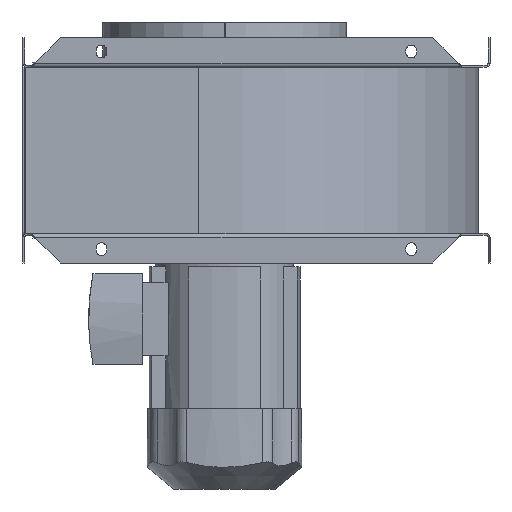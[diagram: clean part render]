
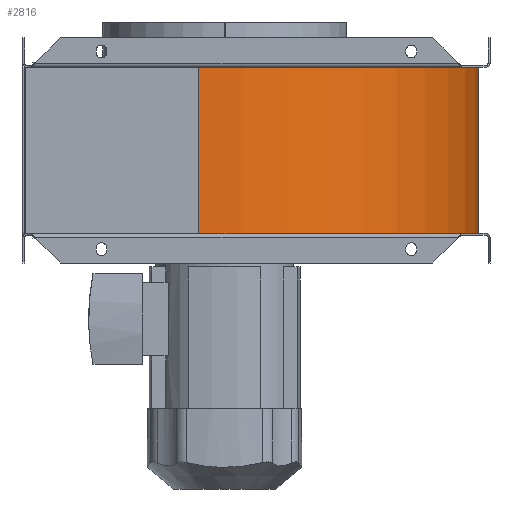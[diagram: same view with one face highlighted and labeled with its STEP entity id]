
A CAD part, front view. The second image highlights one B-rep face of the part: STEP entity #2816.
In plain terms, the highlighted cylindrical face has radius 284.4 mm (diameter 568.8 mm), a partial arc.
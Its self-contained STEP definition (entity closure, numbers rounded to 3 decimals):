
#359=DIRECTION('',(0.,0.,1.));
#360=VECTOR('',#359,169.);
#361=CARTESIAN_POINT('',(-26.299,-305.,-84.5));
#362=LINE('',#361,#360);
#502=CARTESIAN_POINT('',(-26.299,-20.6,84.5));
#503=DIRECTION('',(0.,0.,-1.));
#504=DIRECTION('',(1.,0.005,0.));
#505=AXIS2_PLACEMENT_3D('',#502,#503,#504);
#532=CARTESIAN_POINT('',(-26.299,-20.6,-84.5));
#533=DIRECTION('',(0.,0.,-1.));
#534=DIRECTION('',(1.,0.005,0.));
#535=AXIS2_PLACEMENT_3D('',#532,#533,#534);
#540=DIRECTION('',(0.,0.,1.));
#541=VECTOR('',#540,169.);
#542=CARTESIAN_POINT('',(258.097,-19.154,-84.5));
#543=LINE('',#542,#541);
#1869=CARTESIAN_POINT('',(-26.299,-305.,-84.5));
#1870=VERTEX_POINT('',#1869);
#1873=CARTESIAN_POINT('',(-26.299,-305.,84.5));
#1874=VERTEX_POINT('',#1873);
#1881=CARTESIAN_POINT('',(258.097,-19.154,-84.5));
#1882=VERTEX_POINT('',#1881);
#1883=CARTESIAN_POINT('',(258.097,-19.154,84.5));
#1884=VERTEX_POINT('',#1883);
#2804=CARTESIAN_POINT('',(-26.299,-20.6,-84.5));
#2805=DIRECTION('',(0.,0.,1.));
#2806=DIRECTION('',(1.,0.,0.));
#2807=AXIS2_PLACEMENT_3D('',#2804,#2805,#2806);
#2808=CYLINDRICAL_SURFACE('',#2807,284.4);
#2809=ORIENTED_EDGE('',*,*,#2785,.T.);
#2810=ORIENTED_EDGE('',*,*,#2524,.T.);
#2811=ORIENTED_EDGE('',*,*,#2734,.F.);
#2813=ORIENTED_EDGE('',*,*,#2812,.F.);
#2814=EDGE_LOOP('',(#2809,#2810,#2811,#2813));
#2815=FACE_OUTER_BOUND('',#2814,.F.);
#506=CIRCLE('',#505,284.4);
#536=CIRCLE('',#535,284.4);
#2524=EDGE_CURVE('',#1870,#1874,#362,.T.);
#2734=EDGE_CURVE('',#1884,#1874,#506,.T.);
#2785=EDGE_CURVE('',#1882,#1870,#536,.T.);
#2812=EDGE_CURVE('',#1882,#1884,#543,.T.);
#2816=ADVANCED_FACE('',(#2815),#2808,.T.);
